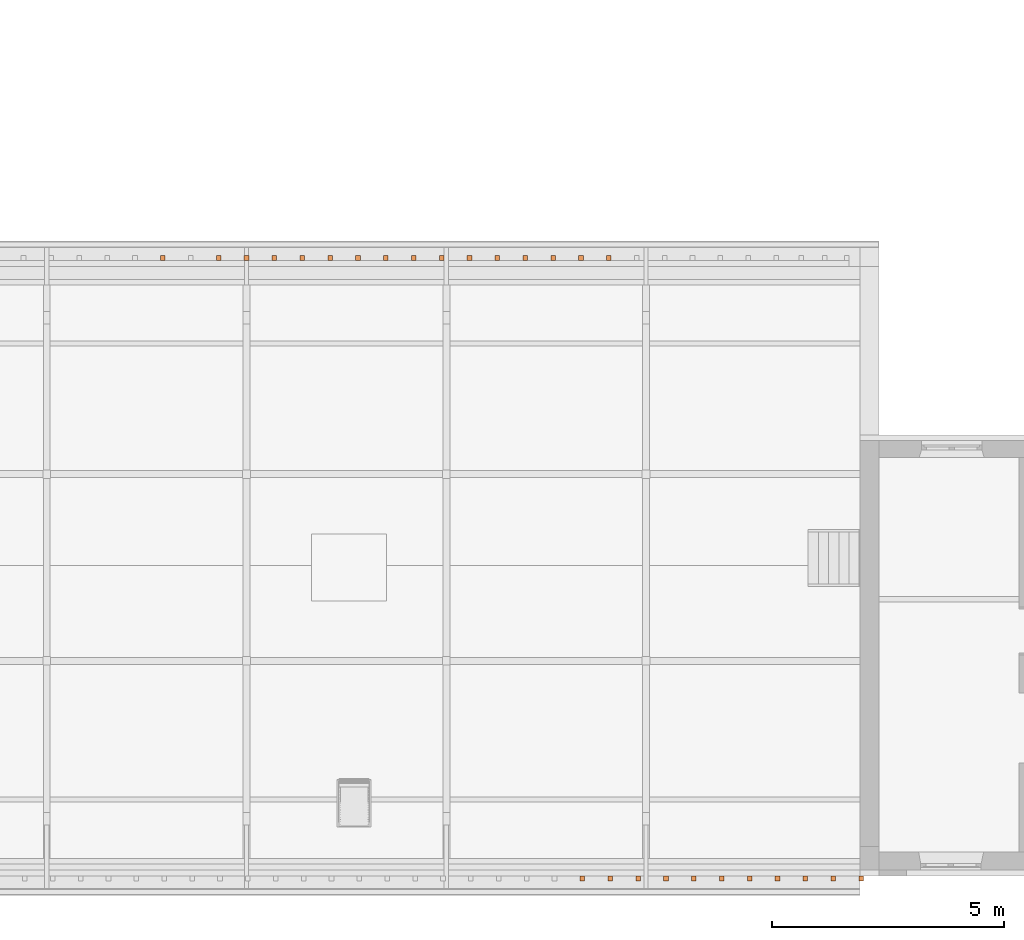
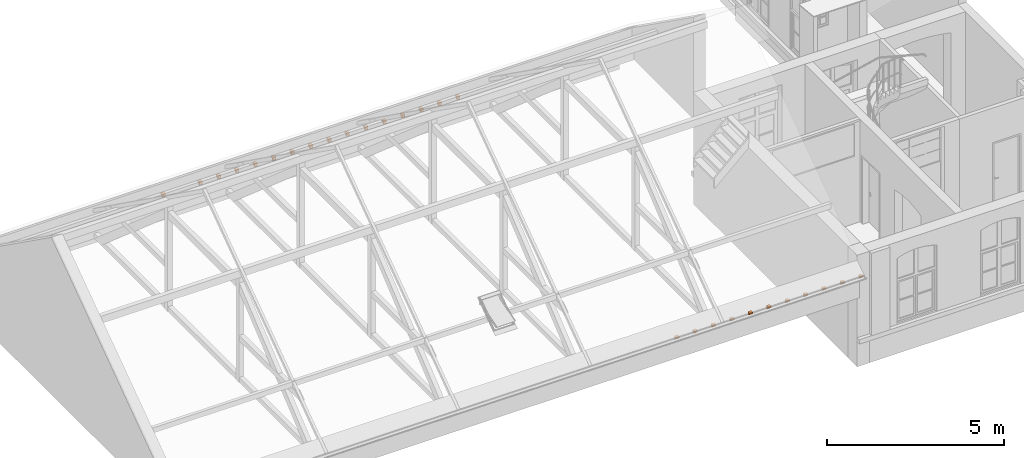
"""IFC4 building model written with IfcOpenShell, lengths in metres."""

import ifcopenshell
import ifcopenshell.guid

model = None  # the IFC model being written
_history = None  # IfcOwnerHistory: only IFC2X3 demands one
_inside = {}  # id of a spatial element -> (the spatial element, [elements in it])
_under = {}  # id of a project, library or spatial element -> (it, [spatial elements below it])
_declared = {}  # id of a project -> (the project, [libraries it declares])
_typed = {}  # id of a type object -> (the type object, [elements of that type])
_made_of = {}  # id of a material, layer set ... -> (it, [elements and type objects made of it])


def new_model(schema):
    """Start an empty IFC model of exactly this schema.

    Asked for "IFC4X3", IfcOpenShell would pick the latest addendum, in which some entities
    have other attributes; the version numbers below select the first issue.
    IFC2X3 requires an IfcOwnerHistory on every rooted entity: one is made here for all.
    """
    global model, _history
    if schema == "IFC4X3":
        model = ifcopenshell.file(schema_version=(4, 3, 0, 0))
    else:
        model = ifcopenshell.file(schema=schema)
    _inside.clear()
    _under.clear()
    _declared.clear()
    _typed.clear()
    _made_of.clear()
    _history = None
    if model.schema == "IFC2X3":
        org = make("IfcOrganization", Name="unknown")
        user = make(
            "IfcPersonAndOrganization",
            ThePerson=make("IfcPerson", FamilyName="unknown"),
            TheOrganization=org,
        )
        app = make(
            "IfcApplication",
            ApplicationDeveloper=org,
            Version="unknown",
            ApplicationFullName="unknown",
            ApplicationIdentifier="unknown",
        )
        _history = make(
            "IfcOwnerHistory",
            OwningUser=user,
            OwningApplication=app,
            ChangeAction="ADDED",
            CreationDate=0,
        )
    return model


def make(cls, **values):
    """One entity of the class cls with the attributes given. An attribute that is None is left unset."""
    return model.create_entity(
        cls, **{name: value for name, value in values.items() if value is not None}
    )


def entity(cls, *values):
    """Any entity or typed value of the class cls, its attributes in the order of the schema. None: left unset."""
    e = model.create_entity(cls)
    for i, value in enumerate(values):
        if value is not None:
            e[i] = value
    return e


def rooted(cls, **values):
    """An entity with a GlobalId (a new one), such as an element, a storey or a relation."""
    return make(cls, GlobalId=ifcopenshell.guid.new(), OwnerHistory=_history, **values)


def si_unit(unit_type, name, prefix=None):
    """IfcSIUnit, for example si_unit("LENGTHUNIT", "METRE", prefix="MILLI")."""
    return make("IfcSIUnit", UnitType=unit_type, Prefix=prefix, Name=name)


def converted_unit(unit_type, name, factor, base, dimensions=None, offset=None):
    """IfcConversionBasedUnit, such as the inch: factor (a typed value) times the base unit."""
    return make(
        "IfcConversionBasedUnit"
        if offset is None
        else "IfcConversionBasedUnitWithOffset",
        ConversionOffset=offset,
        Dimensions=None
        if dimensions is None
        else entity("IfcDimensionalExponents", *dimensions),
        UnitType=unit_type,
        Name=name,
        ConversionFactor=make(
            "IfcMeasureWithUnit", ValueComponent=factor, UnitComponent=base
        ),
    )


def derived_unit(unit_type, elements):
    """IfcDerivedUnit: a product of units, each with its exponent."""
    return make(
        "IfcDerivedUnit",
        Elements=[
            make("IfcDerivedUnitElement", Unit=unit, Exponent=power)
            for unit, power in elements
        ],
        UnitType=unit_type,
    )


def assignment(units):
    """IfcUnitAssignment: the units of a project."""
    return None if units is None else make("IfcUnitAssignment", Units=units)


def point(xyz):
    """IfcCartesianPoint."""
    return None if xyz is None else make("IfcCartesianPoint", Coordinates=xyz)


def direction(xyz):
    """IfcDirection."""
    return None if xyz is None else make("IfcDirection", DirectionRatios=xyz)


def frame(location, z_axis=None, x_axis=None):
    """IfcAxis2Placement3D, a coordinate frame: its origin and axes. An axis left out is left unset."""
    return make(
        "IfcAxis2Placement3D",
        Location=point(location),
        Axis=direction(z_axis),
        RefDirection=direction(x_axis),
    )


def origin():
    """The frame at (0, 0, 0) with its axes left unset."""
    return frame((0.0, 0.0, 0.0))


def place(relative_to, where):
    """IfcLocalPlacement: puts the frame where relative to a parent placement (None: the world)."""
    return make(
        "IfcLocalPlacement", PlacementRelTo=relative_to, RelativePlacement=where
    )


def context(
    kind, dimensions, precision=None, world=None, true_north=None, identifier=None
):
    """IfcGeometricRepresentationContext, for example the 3D "Model" context."""
    return make(
        "IfcGeometricRepresentationContext",
        ContextIdentifier=identifier,
        ContextType=kind,
        CoordinateSpaceDimension=dimensions,
        Precision=precision,
        WorldCoordinateSystem=world,
        TrueNorth=true_north,
    )


def subcontext(parent, identifier, kind, view, scale=None):
    """IfcGeometricRepresentationSubContext, for example "Body" below "Model"."""
    return make(
        "IfcGeometricRepresentationSubContext",
        ContextIdentifier=identifier,
        ContextType=kind,
        ParentContext=parent,
        TargetScale=scale,
        TargetView=view,
    )


def project(units=None, contexts=None):
    """IfcProject with its units and contexts."""
    return rooted(
        "IfcProject",
        Name="project",
        RepresentationContexts=contexts,
        UnitsInContext=assignment(units),
    )


def spatial(cls, under=None, at=None, **own):
    """A site, building, storey or space (cls), placed at a placement, below another one or the project."""
    s = rooted(cls, ObjectPlacement=at, **own)
    if under is not None:
        _under.setdefault(under.id(), (under, []))[1].append(s)
    return s


def faces_of(points, faces, orient=None, outer=None):
    """IfcFace entities. A face is a list of loops; a loop is a list of indices into points, from 0.

    orient and outer hold one flag for each loop. By default every Orientation is true, the
    first loop of a face is its IfcFaceOuterBound and the others are IfcFaceBound.
    """
    made = []
    for i, loops in enumerate(faces):
        bounds = []
        for j, loop in enumerate(loops):
            is_outer = j == 0 if outer is None else outer[i][j]
            bounds.append(
                make(
                    "IfcFaceOuterBound" if is_outer else "IfcFaceBound",
                    Bound=make("IfcPolyLoop", Polygon=[points[k] for k in loop]),
                    Orientation=True if orient is None else orient[i][j],
                )
            )
        made.append(make("IfcFace", Bounds=bounds))
    return made


def faceted_brep(points, faces, orient=None, outer=None, voids=None):
    """IfcFacetedBrep: a solid bounded by flat faces; with voids (closed shells), ...WithVoids."""
    shared = [point(p) for p in points]
    hull = make("IfcClosedShell", CfsFaces=faces_of(shared, faces, orient, outer))
    if voids is None:
        return make("IfcFacetedBrep", Outer=hull)
    return make(
        "IfcFacetedBrepWithVoids",
        Outer=hull,
        Voids=[
            make(cls, CfsFaces=faces_of(shared, fs, o, b)) for cls, fs, o, b in voids
        ],
    )


def shape(context_of_items, identifier, shape_type, items):
    """IfcShapeRepresentation: the items that make up one representation, for example the "Body"."""
    return make(
        "IfcShapeRepresentation",
        ContextOfItems=context_of_items,
        RepresentationIdentifier=identifier,
        RepresentationType=shape_type,
        Items=items,
    )


def made_of(thing, what):
    """Note that an element or type object is made of a material, layer set ...; save() writes the relation."""
    if what is not None:
        _made_of.setdefault(what.id(), (what, []))[1].append(thing)
    return thing


def element(
    cls,
    number,
    at=None,
    inside=None,
    cuts=None,
    type_object=None,
    material=None,
    context=None,
    identifier="Body",
    shape_type=None,
    held_by="IfcProductDefinitionShape",
    body=None,
    shapes=None,
    **own,
):
    """One element of the class cls, such as IfcWall. Its Tag is "e" and its number.

    at: its placement. inside: the storey or other place that contains it. cuts: it is an
    opening in that element (IfcRelVoidsElement). A single representation is given by context,
    identifier, shape_type and body (its items); several are given by shapes. held_by: the class
    of the entity that holds the representations. save() writes the other relations.
    """
    e = rooted(cls, Tag="e%d" % number, ObjectPlacement=at, **own)
    if body is not None:
        shapes = [shape(context, identifier, shape_type, body)]
    if shapes is not None:
        e.Representation = make(held_by, Representations=shapes)
    if inside is not None:
        _inside.setdefault(inside.id(), (inside, []))[1].append(e)
    if cuts is not None:
        rooted(
            "IfcRelVoidsElement", RelatingBuildingElement=cuts, RelatedOpeningElement=e
        )
    if type_object is not None:
        _typed.setdefault(type_object.id(), (type_object, []))[1].append(e)
    return made_of(e, material)


def aggregate(whole, parts):
    """IfcRelAggregates: a whole, such as a stair, and the parts it consists of."""
    return rooted("IfcRelAggregates", RelatingObject=whole, RelatedObjects=parts)


def save(model, path):
    """Write the relations noted so far, then the file.

    IfcRelAggregates (storeys below a building ...), IfcRelContainedInSpatialStructure (elements
    in a storey), IfcRelDefinesByType, IfcRelAssociatesMaterial and IfcRelDeclares: one each for
    every whole, place, type object, material and project.
    """
    for whole, parts in _under.values():
        aggregate(whole, parts)
    for where, things in _inside.values():
        rooted(
            "IfcRelContainedInSpatialStructure",
            RelatedElements=things,
            RelatingStructure=where,
        )
    for kind, things in _typed.values():
        rooted("IfcRelDefinesByType", RelatedObjects=things, RelatingType=kind)
    for what, things in _made_of.values():
        rooted("IfcRelAssociatesMaterial", RelatedObjects=things, RelatingMaterial=what)
    for by, libraries in _declared.values():
        rooted("IfcRelDeclares", RelatingContext=by, RelatedDefinitions=libraries)
    model.write(path)


model = new_model("IFC4")

# Units and contexts
model_context = context("Model", 3, precision=1e-05, world=origin())
body_context = subcontext(model_context, "Body", "Model", "MODEL_VIEW")
ifc_project = project(units=[si_unit("LENGTHUNIT", "METRE"), si_unit("AREAUNIT", "SQUARE_METRE"), si_unit("VOLUMEUNIT", "CUBIC_METRE"), si_unit("MASSUNIT", "GRAM", prefix="KILO"), converted_unit("PLANEANGLEUNIT", "DEGREE", entity("IfcPlaneAngleMeasure", 0.0174532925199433), si_unit("PLANEANGLEUNIT", "RADIAN"), dimensions=[0, 0, 0, 0, 0, 0, 0]), derived_unit("THERMALTRANSMITTANCEUNIT", [(si_unit("POWERUNIT", "WATT"), 1), (si_unit("THERMODYNAMICTEMPERATUREUNIT", "KELVIN"), -1), (si_unit("LENGTHUNIT", "METRE"), -2)]), derived_unit("VOLUMETRICFLOWRATEUNIT", [(si_unit("LENGTHUNIT", "METRE"), 3), (converted_unit("TIMEUNIT", "hour", entity("IfcTimeMeasure", 3600.0), si_unit("TIMEUNIT", "SECOND"), dimensions=[0, 0, 1, 0, 0, 0, 0]), -1), (si_unit("LENGTHUNIT", "METRE"), -1)])], contexts=[model_context])

# Building, storeys
building_placement = place(None, origin())
building = spatial("IfcBuilding", under=ifc_project, at=building_placement, Name="Bestandsgebäude A - Sporthalle / Wohnhaus (TB 100-499)   ANPASSEN !!!", CompositionType="ELEMENT")
storey_1_placement = place(building_placement, frame((0.0, 0.0, 3.87)))
storey_1 = spatial("IfcBuildingStorey", under=building, at=storey_1_placement, Name="Geb. A 1. Obergeschoss (TB 250-299)", CompositionType="ELEMENT", Elevation=3.87)
storey_2_placement = place(storey_1_placement, frame((0.0, 0.0, 3.87)))
storey_2 = spatial("IfcBuildingStorey", under=storey_1, at=storey_2_placement, Name="Architektur (TB 250-259)", CompositionType="PARTIAL")

# Proxies
for number, where in (
    (1, (-8.93000000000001, -0.230000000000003, -1.12676065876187)),
    (2, (-9.53000000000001, -0.230000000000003, -1.12676065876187)),
    (3, (-10.13, -0.230000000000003, -1.12676065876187)),
    (4, (-10.73, -0.230000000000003, -1.12676065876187)),
    (5, (-11.33, -0.230000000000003, -1.12676065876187)),
    (6, (-12.53, -0.230000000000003, -1.12676065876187)),
    (7, (-12.53, -0.230000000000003, -1.12676065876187)),
    (8, (-11.93, -0.230000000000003, -1.12676065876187)),
    (9, (-12.53, -0.230000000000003, -1.12676065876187)),
    (10, (-11.93, -0.230000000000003, -1.12676065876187)),
    (11, (-12.53, -0.230000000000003, -1.12676065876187)),
    (12, (-13.13, -0.230000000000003, -1.12676065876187)),
    (13, (-13.73, -0.230000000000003, -1.12676065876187)),
    (14, (-14.33, -0.230000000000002, -1.12676065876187)),
    (15, (-14.93, -0.230000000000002, -1.12676065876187)),
):
    element("IfcBuildingElementProxy", number, at=place(storey_2_placement, frame(where)), inside=storey_2, context=body_context, shape_type="Brep", body=[
        faceted_brep([(0.1, 0.11, 0.10676065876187), (0.0, 0.11, 0.10676065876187), (0.0, 0.109999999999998, 0.0), (0.1, 0.109999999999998, 0.0), (0.0, 0.0878057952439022, 0.0), (0.1, 0.0878057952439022, 0.0), (0.0, 0.079673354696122, 0.00115963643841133), (0.1, 0.079673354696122, 0.00115963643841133), (0.0, 0.0675008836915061, 0.00476296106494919), (0.1, 0.0675008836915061, 0.00476296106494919), (0.0, 0.0583377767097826, 0.00852666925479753), (0.1, 0.0583377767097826, 0.00852666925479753), (0.0, 0.0511802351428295, 0.0140969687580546), (0.1, 0.0511802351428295, 0.0140969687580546), (0.0, 0.0408945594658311, 0.0295254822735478), (0.1, 0.0408945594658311, 0.0295254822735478), (0.0, 0.04, 0.0333518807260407), (0.1, 0.04, 0.0333518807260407), (0.0, 0.04, 0.0567606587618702), (0.1, 0.04, 0.0567606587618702), (0.0, 0.0, 0.0567606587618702), (0.1, 0.0, 0.0567606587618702), (0.0, 0.0, 0.10676065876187), (0.1, 0.0, 0.10676065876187)], [[[0, 1, 2, 3]], [[3, 2, 4, 5]], [[5, 4, 6, 7]], [[7, 6, 8, 9]], [[9, 8, 10, 11]], [[11, 10, 12, 13]], [[13, 12, 14, 15]], [[15, 14, 16, 17]], [[17, 16, 18, 19]], [[19, 18, 20, 21]], [[21, 20, 22, 23]], [[23, 22, 1, 0]], [[0, 3, 5, 7, 9, 11, 13, 15, 17, 19, 21, 23]], [[1, 22, 20, 18, 16, 14, 12, 10, 8, 6, 4, 2]]], orient=[[False], [False], [False], [False], [False], [False], [False], [False], [False], [False], [False], [False], [False], [False]]),
    ])
proxy_1_placement = place(storey_2_placement, frame((-14.3600000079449, 13.1200012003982, -1.12676065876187)))
element("IfcBuildingElementProxy", 16, at=proxy_1_placement, inside=storey_2, context=body_context, shape_type="Brep", body=[
    faceted_brep([(0.100000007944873, 0.0, 0.10676065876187), (0.100000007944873, 0.0, 0.0), (0.0, 0.0, 0.0), (0.0, 0.0, 0.10676065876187), (0.10000000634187, 0.0221942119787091, 0.0), (0.0, 0.0221942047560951, 0.0), (0.100000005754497, 0.0303266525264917, 0.00115963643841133), (0.0, 0.0303266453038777, 0.00115963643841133), (0.100000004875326, 0.0424991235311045, 0.00476296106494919), (0.0, 0.0424991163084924, 0.00476296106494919), (0.100000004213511, 0.0516622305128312, 0.00852666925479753), (0.0, 0.0516622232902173, 0.00852666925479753), (0.100000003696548, 0.0588197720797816, 0.0140969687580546), (0.0, 0.0588197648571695, 0.0140969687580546), (0.100000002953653, 0.0691054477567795, 0.0295254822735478), (0.0, 0.0691054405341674, 0.0295254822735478), (0.100000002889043, 0.0700000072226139, 0.0333518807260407), (0.0, 0.07, 0.0333518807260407), (0.100000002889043, 0.0700000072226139, 0.0567606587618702), (0.0, 0.07, 0.0567606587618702), (0.0999999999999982, 0.110000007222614, 0.0567606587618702), (0.0, 0.11, 0.0567606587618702), (0.0999999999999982, 0.110000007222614, 0.10676065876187), (0.0, 0.11, 0.10676065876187)], [[[0, 1, 2, 3]], [[1, 4, 5, 2]], [[4, 6, 7, 5]], [[6, 8, 9, 7]], [[8, 10, 11, 9]], [[10, 12, 13, 11]], [[12, 14, 15, 13]], [[14, 16, 17, 15]], [[16, 18, 19, 17]], [[18, 20, 21, 19]], [[20, 22, 23, 21]], [[22, 0, 3, 23]], [[0, 22, 20, 18, 16, 14, 12, 10, 8, 6, 4, 1]], [[3, 2, 5, 7, 9, 11, 13, 15, 17, 19, 21, 23]]], orient=[[False], [False], [False], [False], [False], [False], [False], [False], [False], [False], [False], [False], [False], [False]]),
])
proxy_2_placement = place(storey_2_placement, frame((-14.9600000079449, 13.1200011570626, -1.12676065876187)))
element("IfcBuildingElementProxy", 17, at=proxy_2_placement, inside=storey_2, context=body_context, shape_type="Brep", body=[
    faceted_brep([(0.100000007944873, 0.0, 0.10676065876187), (0.100000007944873, 0.0, 0.0), (0.0, 0.0, 0.0), (0.0, 0.0, 0.10676065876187), (0.100000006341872, 0.0221942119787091, 0.0), (0.0, 0.0221942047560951, 0.0), (0.100000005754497, 0.0303266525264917, 0.00115963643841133), (0.0, 0.0303266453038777, 0.00115963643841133), (0.100000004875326, 0.0424991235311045, 0.00476296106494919), (0.0, 0.0424991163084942, 0.00476296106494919), (0.100000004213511, 0.0516622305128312, 0.00852666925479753), (0.0, 0.0516622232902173, 0.00852666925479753), (0.10000000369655, 0.0588197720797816, 0.0140969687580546), (0.0, 0.0588197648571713, 0.0140969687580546), (0.100000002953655, 0.0691054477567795, 0.0295254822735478), (0.0, 0.0691054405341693, 0.0295254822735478), (0.100000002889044, 0.0700000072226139, 0.0333518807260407), (0.0, 0.07, 0.0333518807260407), (0.100000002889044, 0.0700000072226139, 0.0567606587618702), (0.0, 0.07, 0.0567606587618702), (0.1, 0.110000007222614, 0.0567606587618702), (0.0, 0.11, 0.0567606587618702), (0.1, 0.110000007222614, 0.10676065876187), (0.0, 0.11, 0.10676065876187)], [[[0, 1, 2, 3]], [[1, 4, 5, 2]], [[4, 6, 7, 5]], [[6, 8, 9, 7]], [[8, 10, 11, 9]], [[10, 12, 13, 11]], [[12, 14, 15, 13]], [[14, 16, 17, 15]], [[16, 18, 19, 17]], [[18, 20, 21, 19]], [[20, 22, 23, 21]], [[22, 0, 3, 23]], [[0, 22, 20, 18, 16, 14, 12, 10, 8, 6, 4, 1]], [[3, 2, 5, 7, 9, 11, 13, 15, 17, 19, 21, 23]]], orient=[[False], [False], [False], [False], [False], [False], [False], [False], [False], [False], [False], [False], [False], [False]]),
])
proxy_3_placement = place(storey_2_placement, frame((-15.5600000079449, 13.1200011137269, -1.12676065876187)))
element("IfcBuildingElementProxy", 18, at=proxy_3_placement, inside=storey_2, context=body_context, shape_type="Brep", body=[
    faceted_brep([(0.100000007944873, 0.0, 0.10676065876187), (0.100000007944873, 0.0, 0.0), (0.0, 0.0, 0.0), (0.0, 0.0, 0.10676065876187), (0.100000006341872, 0.0221942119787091, 0.0), (0.0, 0.0221942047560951, 0.0), (0.100000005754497, 0.0303266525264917, 0.00115963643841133), (0.0, 0.0303266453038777, 0.00115963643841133), (0.100000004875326, 0.0424991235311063, 0.00476296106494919), (0.0, 0.0424991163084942, 0.00476296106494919), (0.100000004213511, 0.0516622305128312, 0.00852666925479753), (0.0, 0.0516622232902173, 0.00852666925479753), (0.10000000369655, 0.0588197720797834, 0.0140969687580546), (0.0, 0.0588197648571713, 0.0140969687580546), (0.100000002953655, 0.0691054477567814, 0.0295254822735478), (0.0, 0.0691054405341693, 0.0295254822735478), (0.100000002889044, 0.0700000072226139, 0.0333518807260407), (0.0, 0.07, 0.0333518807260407), (0.100000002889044, 0.0700000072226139, 0.0567606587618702), (0.0, 0.07, 0.0567606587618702), (0.1, 0.110000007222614, 0.0567606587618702), (0.0, 0.11, 0.0567606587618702), (0.1, 0.110000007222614, 0.10676065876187), (0.0, 0.11, 0.10676065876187)], [[[0, 1, 2, 3]], [[1, 4, 5, 2]], [[4, 6, 7, 5]], [[6, 8, 9, 7]], [[8, 10, 11, 9]], [[10, 12, 13, 11]], [[12, 14, 15, 13]], [[14, 16, 17, 15]], [[16, 18, 19, 17]], [[18, 20, 21, 19]], [[20, 22, 23, 21]], [[22, 0, 3, 23]], [[0, 22, 20, 18, 16, 14, 12, 10, 8, 6, 4, 1]], [[3, 2, 5, 7, 9, 11, 13, 15, 17, 19, 21, 23]]], orient=[[False], [False], [False], [False], [False], [False], [False], [False], [False], [False], [False], [False], [False], [False]]),
])
proxy_4_placement = place(storey_2_placement, frame((-16.1600000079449, 13.1200010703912, -1.12676065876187)))
element("IfcBuildingElementProxy", 19, at=proxy_4_placement, inside=storey_2, context=body_context, shape_type="Brep", body=[
    faceted_brep([(0.100000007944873, 0.0, 0.10676065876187), (0.100000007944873, 0.0, 0.0), (0.0, 0.0, 0.0), (0.0, 0.0, 0.10676065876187), (0.100000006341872, 0.0221942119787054, 0.0), (0.0, 0.0221942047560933, 0.0), (0.100000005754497, 0.030326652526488, 0.00115963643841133), (0.0, 0.0303266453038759, 0.00115963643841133), (0.100000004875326, 0.0424991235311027, 0.00476296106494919), (0.0, 0.0424991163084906, 0.00476296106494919), (0.100000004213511, 0.0516622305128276, 0.00852666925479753), (0.0, 0.0516622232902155, 0.00852666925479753), (0.10000000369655, 0.0588197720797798, 0.0140969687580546), (0.0, 0.0588197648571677, 0.0140969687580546), (0.100000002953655, 0.0691054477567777, 0.0295254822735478), (0.0, 0.0691054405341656, 0.0295254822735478), (0.100000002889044, 0.0700000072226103, 0.0333518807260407), (0.0, 0.0699999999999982, 0.0333518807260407), (0.100000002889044, 0.0700000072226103, 0.0567606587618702), (0.0, 0.0699999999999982, 0.0567606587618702), (0.1, 0.11000000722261, 0.0567606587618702), (0.0, 0.109999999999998, 0.0567606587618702), (0.1, 0.11000000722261, 0.10676065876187), (0.0, 0.109999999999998, 0.10676065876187)], [[[0, 1, 2, 3]], [[1, 4, 5, 2]], [[4, 6, 7, 5]], [[6, 8, 9, 7]], [[8, 10, 11, 9]], [[10, 12, 13, 11]], [[12, 14, 15, 13]], [[14, 16, 17, 15]], [[16, 18, 19, 17]], [[18, 20, 21, 19]], [[20, 22, 23, 21]], [[22, 0, 3, 23]], [[0, 22, 20, 18, 16, 14, 12, 10, 8, 6, 4, 1]], [[3, 2, 5, 7, 9, 11, 13, 15, 17, 19, 21, 23]]], orient=[[False], [False], [False], [False], [False], [False], [False], [False], [False], [False], [False], [False], [False], [False]]),
])
proxy_5_placement = place(storey_2_placement, frame((-16.7600000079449, 13.1200010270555, -1.12676065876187)))
element("IfcBuildingElementProxy", 20, at=proxy_5_placement, inside=storey_2, context=body_context, shape_type="Brep", body=[
    faceted_brep([(0.100000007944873, 0.0, 0.10676065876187), (0.100000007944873, 0.0, 0.0), (0.0, 0.0, 0.0), (0.0, 0.0, 0.10676065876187), (0.10000000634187, 0.0221942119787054, 0.0), (0.0, 0.0221942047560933, 0.0), (0.100000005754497, 0.030326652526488, 0.00115963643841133), (0.0, 0.0303266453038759, 0.00115963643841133), (0.100000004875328, 0.0424991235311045, 0.00476296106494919), (0.0, 0.0424991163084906, 0.00476296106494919), (0.100000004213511, 0.0516622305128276, 0.00852666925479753), (0.0, 0.0516622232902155, 0.00852666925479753), (0.10000000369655, 0.0588197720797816, 0.0140969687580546), (0.0, 0.0588197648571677, 0.0140969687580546), (0.100000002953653, 0.0691054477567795, 0.0295254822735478), (0.0, 0.0691054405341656, 0.0295254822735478), (0.100000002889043, 0.0700000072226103, 0.0333518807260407), (0.0, 0.0699999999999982, 0.0333518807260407), (0.100000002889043, 0.0700000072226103, 0.0567606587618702), (0.0, 0.0699999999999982, 0.0567606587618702), (0.1, 0.11000000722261, 0.0567606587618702), (0.0, 0.109999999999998, 0.0567606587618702), (0.1, 0.11000000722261, 0.10676065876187), (0.0, 0.109999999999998, 0.10676065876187)], [[[0, 1, 2, 3]], [[1, 4, 5, 2]], [[4, 6, 7, 5]], [[6, 8, 9, 7]], [[8, 10, 11, 9]], [[10, 12, 13, 11]], [[12, 14, 15, 13]], [[14, 16, 17, 15]], [[16, 18, 19, 17]], [[18, 20, 21, 19]], [[20, 22, 23, 21]], [[22, 0, 3, 23]], [[0, 22, 20, 18, 16, 14, 12, 10, 8, 6, 4, 1]], [[3, 2, 5, 7, 9, 11, 13, 15, 17, 19, 21, 23]]], orient=[[False], [False], [False], [False], [False], [False], [False], [False], [False], [False], [False], [False], [False], [False]]),
])
proxy_6_placement = place(storey_2_placement, frame((-17.3600000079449, 13.1200009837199, -1.12676065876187)))
element("IfcBuildingElementProxy", 21, at=proxy_6_placement, inside=storey_2, context=body_context, shape_type="Brep", body=[
    faceted_brep([(0.100000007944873, 0.0, 0.10676065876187), (0.100000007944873, 0.0, 0.0), (0.0, 0.0, 0.0), (0.0, 0.0, 0.10676065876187), (0.100000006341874, 0.0221942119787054, 0.0), (0.0, 0.0221942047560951, 0.0), (0.100000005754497, 0.030326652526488, 0.00115963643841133), (0.0, 0.0303266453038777, 0.00115963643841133), (0.100000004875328, 0.0424991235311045, 0.00476296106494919), (0.0, 0.0424991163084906, 0.00476296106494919), (0.100000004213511, 0.0516622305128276, 0.00852666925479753), (0.0, 0.0516622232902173, 0.00852666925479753), (0.10000000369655, 0.0588197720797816, 0.0140969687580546), (0.0, 0.0588197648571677, 0.0140969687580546), (0.100000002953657, 0.0691054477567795, 0.0295254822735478), (0.0, 0.0691054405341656, 0.0295254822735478), (0.100000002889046, 0.0700000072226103, 0.0333518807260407), (0.0, 0.07, 0.0333518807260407), (0.100000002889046, 0.0700000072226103, 0.0567606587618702), (0.0, 0.07, 0.0567606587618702), (0.1, 0.11000000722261, 0.0567606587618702), (0.0, 0.11, 0.0567606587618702), (0.1, 0.11000000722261, 0.10676065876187), (0.0, 0.11, 0.10676065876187)], [[[0, 1, 2, 3]], [[1, 4, 5, 2]], [[4, 6, 7, 5]], [[6, 8, 9, 7]], [[8, 10, 11, 9]], [[10, 12, 13, 11]], [[12, 14, 15, 13]], [[14, 16, 17, 15]], [[16, 18, 19, 17]], [[18, 20, 21, 19]], [[20, 22, 23, 21]], [[22, 0, 3, 23]], [[0, 22, 20, 18, 16, 14, 12, 10, 8, 6, 4, 1]], [[3, 2, 5, 7, 9, 11, 13, 15, 17, 19, 21, 23]]], orient=[[False], [False], [False], [False], [False], [False], [False], [False], [False], [False], [False], [False], [False], [False]]),
])
proxy_7_placement = place(storey_2_placement, frame((-17.9600000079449, 13.1200009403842, -1.12676065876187)))
element("IfcBuildingElementProxy", 22, at=proxy_7_placement, inside=storey_2, context=body_context, shape_type="Brep", body=[
    faceted_brep([(0.100000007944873, 0.0, 0.10676065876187), (0.100000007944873, 0.0, 0.0), (0.0, 0.0, 0.0), (0.0, 0.0, 0.10676065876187), (0.10000000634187, 0.0221942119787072, 0.0), (0.0, 0.0221942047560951, 0.0), (0.100000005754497, 0.0303266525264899, 0.00115963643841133), (0.0, 0.0303266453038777, 0.00115963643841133), (0.100000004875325, 0.0424991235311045, 0.00476296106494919), (0.0, 0.0424991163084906, 0.00476296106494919), (0.100000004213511, 0.0516622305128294, 0.00852666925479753), (0.0, 0.0516622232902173, 0.00852666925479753), (0.10000000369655, 0.0588197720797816, 0.0140969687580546), (0.0, 0.0588197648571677, 0.0140969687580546), (0.100000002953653, 0.0691054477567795, 0.0295254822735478), (0.0, 0.0691054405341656, 0.0295254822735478), (0.100000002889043, 0.0700000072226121, 0.0333518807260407), (0.0, 0.07, 0.0333518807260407), (0.100000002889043, 0.0700000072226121, 0.0567606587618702), (0.0, 0.07, 0.0567606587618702), (0.1, 0.110000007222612, 0.0567606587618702), (0.0, 0.11, 0.0567606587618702), (0.1, 0.110000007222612, 0.10676065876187), (0.0, 0.11, 0.10676065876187)], [[[0, 1, 2, 3]], [[1, 4, 5, 2]], [[4, 6, 7, 5]], [[6, 8, 9, 7]], [[8, 10, 11, 9]], [[10, 12, 13, 11]], [[12, 14, 15, 13]], [[14, 16, 17, 15]], [[16, 18, 19, 17]], [[18, 20, 21, 19]], [[20, 22, 23, 21]], [[22, 0, 3, 23]], [[0, 22, 20, 18, 16, 14, 12, 10, 8, 6, 4, 1]], [[3, 2, 5, 7, 9, 11, 13, 15, 17, 19, 21, 23]]], orient=[[False], [False], [False], [False], [False], [False], [False], [False], [False], [False], [False], [False], [False], [False]]),
])
proxy_8_placement = place(storey_2_placement, frame((-18.5600000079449, 13.1200008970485, -1.12676065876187)))
element("IfcBuildingElementProxy", 23, at=proxy_8_placement, inside=storey_2, context=body_context, shape_type="Brep", body=[
    faceted_brep([(0.100000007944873, 0.0, 0.10676065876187), (0.100000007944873, 0.0, 0.0), (0.0, 0.0, 0.0), (0.0, 0.0, 0.10676065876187), (0.100000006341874, 0.0221942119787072, 0.0), (0.0, 0.0221942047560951, 0.0), (0.100000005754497, 0.0303266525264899, 0.00115963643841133), (0.0, 0.0303266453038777, 0.00115963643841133), (0.100000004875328, 0.0424991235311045, 0.00476296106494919), (0.0, 0.0424991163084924, 0.00476296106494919), (0.100000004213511, 0.0516622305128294, 0.00852666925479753), (0.0, 0.0516622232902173, 0.00852666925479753), (0.10000000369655, 0.0588197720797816, 0.0140969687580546), (0.0, 0.0588197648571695, 0.0140969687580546), (0.100000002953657, 0.0691054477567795, 0.0295254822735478), (0.0, 0.0691054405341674, 0.0295254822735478), (0.100000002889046, 0.0700000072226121, 0.0333518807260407), (0.0, 0.07, 0.0333518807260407), (0.100000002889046, 0.0700000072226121, 0.0567606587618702), (0.0, 0.07, 0.0567606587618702), (0.1, 0.110000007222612, 0.0567606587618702), (0.0, 0.11, 0.0567606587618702), (0.1, 0.110000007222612, 0.10676065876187), (0.0, 0.11, 0.10676065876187)], [[[0, 1, 2, 3]], [[1, 4, 5, 2]], [[4, 6, 7, 5]], [[6, 8, 9, 7]], [[8, 10, 11, 9]], [[10, 12, 13, 11]], [[12, 14, 15, 13]], [[14, 16, 17, 15]], [[16, 18, 19, 17]], [[18, 20, 21, 19]], [[20, 22, 23, 21]], [[22, 0, 3, 23]], [[0, 22, 20, 18, 16, 14, 12, 10, 8, 6, 4, 1]], [[3, 2, 5, 7, 9, 11, 13, 15, 17, 19, 21, 23]]], orient=[[False], [False], [False], [False], [False], [False], [False], [False], [False], [False], [False], [False], [False], [False]]),
])
proxy_9_placement = place(storey_2_placement, frame((-19.1600000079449, 13.1200008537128, -1.12676065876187)))
element("IfcBuildingElementProxy", 24, at=proxy_9_placement, inside=storey_2, context=body_context, shape_type="Brep", body=[
    faceted_brep([(0.100000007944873, 0.0, 0.10676065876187), (0.100000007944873, 0.0, 0.0), (0.0, 0.0, 0.0), (0.0, 0.0, 0.10676065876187), (0.10000000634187, 0.0221942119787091, 0.0), (0.0, 0.0221942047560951, 0.0), (0.100000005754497, 0.0303266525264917, 0.00115963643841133), (0.0, 0.0303266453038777, 0.00115963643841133), (0.100000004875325, 0.0424991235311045, 0.00476296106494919), (0.0, 0.0424991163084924, 0.00476296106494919), (0.100000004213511, 0.0516622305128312, 0.00852666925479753), (0.0, 0.0516622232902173, 0.00852666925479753), (0.100000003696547, 0.0588197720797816, 0.0140969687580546), (0.0, 0.0588197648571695, 0.0140969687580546), (0.100000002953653, 0.0691054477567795, 0.0295254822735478), (0.0, 0.0691054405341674, 0.0295254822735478), (0.100000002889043, 0.0700000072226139, 0.0333518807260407), (0.0, 0.07, 0.0333518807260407), (0.100000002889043, 0.0700000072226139, 0.0567606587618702), (0.0, 0.07, 0.0567606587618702), (0.0999999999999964, 0.110000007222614, 0.0567606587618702), (0.0, 0.11, 0.0567606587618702), (0.0999999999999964, 0.110000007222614, 0.10676065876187), (0.0, 0.11, 0.10676065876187)], [[[0, 1, 2, 3]], [[1, 4, 5, 2]], [[4, 6, 7, 5]], [[6, 8, 9, 7]], [[8, 10, 11, 9]], [[10, 12, 13, 11]], [[12, 14, 15, 13]], [[14, 16, 17, 15]], [[16, 18, 19, 17]], [[18, 20, 21, 19]], [[20, 22, 23, 21]], [[22, 0, 3, 23]], [[0, 22, 20, 18, 16, 14, 12, 10, 8, 6, 4, 1]], [[3, 2, 5, 7, 9, 11, 13, 15, 17, 19, 21, 23]]], orient=[[False], [False], [False], [False], [False], [False], [False], [False], [False], [False], [False], [False], [False], [False]]),
])
proxy_10_placement = place(storey_2_placement, frame((-19.7600000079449, 13.1200008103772, -1.12676065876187)))
element("IfcBuildingElementProxy", 25, at=proxy_10_placement, inside=storey_2, context=body_context, shape_type="Brep", body=[
    faceted_brep([(0.100000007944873, 0.0, 0.10676065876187), (0.100000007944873, 0.0, 0.0), (0.0, 0.0, 0.0), (0.0, 0.0, 0.10676065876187), (0.100000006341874, 0.0221942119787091, 0.0), (0.0, 0.0221942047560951, 0.0), (0.100000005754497, 0.0303266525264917, 0.00115963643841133), (0.0, 0.0303266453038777, 0.00115963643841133), (0.100000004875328, 0.0424991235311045, 0.00476296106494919), (0.0, 0.0424991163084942, 0.00476296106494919), (0.100000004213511, 0.0516622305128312, 0.00852666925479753), (0.0, 0.0516622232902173, 0.00852666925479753), (0.10000000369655, 0.0588197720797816, 0.0140969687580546), (0.0, 0.0588197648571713, 0.0140969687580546), (0.100000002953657, 0.0691054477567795, 0.0295254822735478), (0.0, 0.0691054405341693, 0.0295254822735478), (0.100000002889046, 0.0700000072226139, 0.0333518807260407), (0.0, 0.07, 0.0333518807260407), (0.100000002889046, 0.0700000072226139, 0.0567606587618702), (0.0, 0.07, 0.0567606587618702), (0.1, 0.110000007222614, 0.0567606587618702), (0.0, 0.11, 0.0567606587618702), (0.1, 0.110000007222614, 0.10676065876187), (0.0, 0.11, 0.10676065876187)], [[[0, 1, 2, 3]], [[1, 4, 5, 2]], [[4, 6, 7, 5]], [[6, 8, 9, 7]], [[8, 10, 11, 9]], [[10, 12, 13, 11]], [[12, 14, 15, 13]], [[14, 16, 17, 15]], [[16, 18, 19, 17]], [[18, 20, 21, 19]], [[20, 22, 23, 21]], [[22, 0, 3, 23]], [[0, 22, 20, 18, 16, 14, 12, 10, 8, 6, 4, 1]], [[3, 2, 5, 7, 9, 11, 13, 15, 17, 19, 21, 23]]], orient=[[False], [False], [False], [False], [False], [False], [False], [False], [False], [False], [False], [False], [False], [False]]),
])
proxy_11_placement = place(storey_2_placement, frame((-20.3600000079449, 13.1200007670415, -1.12676065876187)))
element("IfcBuildingElementProxy", 26, at=proxy_11_placement, inside=storey_2, context=body_context, shape_type="Brep", body=[
    faceted_brep([(0.100000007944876, 0.0, 0.10676065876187), (0.100000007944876, 0.0, 0.0), (0.0, 0.0, 0.0), (0.0, 0.0, 0.10676065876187), (0.100000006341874, 0.0221942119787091, 0.0), (0.0, 0.0221942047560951, 0.0), (0.1000000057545, 0.0303266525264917, 0.00115963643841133), (0.0, 0.0303266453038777, 0.00115963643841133), (0.100000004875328, 0.0424991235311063, 0.00476296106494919), (0.0, 0.0424991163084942, 0.00476296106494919), (0.100000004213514, 0.0516622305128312, 0.00852666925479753), (0.0, 0.0516622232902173, 0.00852666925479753), (0.10000000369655, 0.0588197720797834, 0.0140969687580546), (0.0, 0.0588197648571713, 0.0140969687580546), (0.100000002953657, 0.0691054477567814, 0.0295254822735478), (0.0, 0.0691054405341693, 0.0295254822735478), (0.100000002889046, 0.0700000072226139, 0.0333518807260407), (0.0, 0.07, 0.0333518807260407), (0.100000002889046, 0.0700000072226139, 0.0567606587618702), (0.0, 0.07, 0.0567606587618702), (0.1, 0.110000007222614, 0.0567606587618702), (0.0, 0.11, 0.0567606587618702), (0.1, 0.110000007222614, 0.10676065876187), (0.0, 0.11, 0.10676065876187)], [[[0, 1, 2, 3]], [[1, 4, 5, 2]], [[4, 6, 7, 5]], [[6, 8, 9, 7]], [[8, 10, 11, 9]], [[10, 12, 13, 11]], [[12, 14, 15, 13]], [[14, 16, 17, 15]], [[16, 18, 19, 17]], [[18, 20, 21, 19]], [[20, 22, 23, 21]], [[22, 0, 3, 23]], [[0, 22, 20, 18, 16, 14, 12, 10, 8, 6, 4, 1]], [[3, 2, 5, 7, 9, 11, 13, 15, 17, 19, 21, 23]]], orient=[[False], [False], [False], [False], [False], [False], [False], [False], [False], [False], [False], [False], [False], [False]]),
])
proxy_12_placement = place(storey_2_placement, frame((-20.9600000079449, 13.1200007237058, -1.12676065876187)))
element("IfcBuildingElementProxy", 27, at=proxy_12_placement, inside=storey_2, context=body_context, shape_type="Brep", body=[
    faceted_brep([(0.100000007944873, 0.0, 0.10676065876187), (0.100000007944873, 0.0, 0.0), (0.0, 0.0, 0.0), (0.0, 0.0, 0.10676065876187), (0.10000000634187, 0.0221942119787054, 0.0), (0.0, 0.0221942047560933, 0.0), (0.100000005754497, 0.030326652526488, 0.00115963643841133), (0.0, 0.0303266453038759, 0.00115963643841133), (0.100000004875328, 0.0424991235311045, 0.00476296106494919), (0.0, 0.0424991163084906, 0.00476296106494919), (0.100000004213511, 0.0516622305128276, 0.00852666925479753), (0.0, 0.0516622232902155, 0.00852666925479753), (0.10000000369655, 0.0588197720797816, 0.0140969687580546), (0.0, 0.0588197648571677, 0.0140969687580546), (0.100000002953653, 0.0691054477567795, 0.0295254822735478), (0.0, 0.0691054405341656, 0.0295254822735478), (0.100000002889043, 0.0700000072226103, 0.0333518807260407), (0.0, 0.0699999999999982, 0.0333518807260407), (0.100000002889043, 0.0700000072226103, 0.0567606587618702), (0.0, 0.0699999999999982, 0.0567606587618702), (0.1, 0.11000000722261, 0.0567606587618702), (0.0, 0.109999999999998, 0.0567606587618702), (0.1, 0.11000000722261, 0.10676065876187), (0.0, 0.109999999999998, 0.10676065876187)], [[[0, 1, 2, 3]], [[1, 4, 5, 2]], [[4, 6, 7, 5]], [[6, 8, 9, 7]], [[8, 10, 11, 9]], [[10, 12, 13, 11]], [[12, 14, 15, 13]], [[14, 16, 17, 15]], [[16, 18, 19, 17]], [[18, 20, 21, 19]], [[20, 22, 23, 21]], [[22, 0, 3, 23]], [[0, 22, 20, 18, 16, 14, 12, 10, 8, 6, 4, 1]], [[3, 2, 5, 7, 9, 11, 13, 15, 17, 19, 21, 23]]], orient=[[False], [False], [False], [False], [False], [False], [False], [False], [False], [False], [False], [False], [False], [False]]),
])
proxy_13_placement = place(storey_2_placement, frame((-21.5600000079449, 13.1200006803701, -1.12676065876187)))
element("IfcBuildingElementProxy", 28, at=proxy_13_placement, inside=storey_2, context=body_context, shape_type="Brep", body=[
    faceted_brep([(0.100000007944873, 0.0, 0.10676065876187), (0.100000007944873, 0.0, 0.0), (0.0, 0.0, 0.0), (0.0, 0.0, 0.10676065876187), (0.100000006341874, 0.0221942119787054, 0.0), (0.0, 0.0221942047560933, 0.0), (0.100000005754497, 0.030326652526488, 0.00115963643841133), (0.0, 0.0303266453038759, 0.00115963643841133), (0.100000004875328, 0.0424991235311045, 0.00476296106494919), (0.0, 0.0424991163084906, 0.00476296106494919), (0.100000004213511, 0.0516622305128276, 0.00852666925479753), (0.0, 0.0516622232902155, 0.00852666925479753), (0.10000000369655, 0.0588197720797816, 0.0140969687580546), (0.0, 0.0588197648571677, 0.0140969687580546), (0.100000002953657, 0.0691054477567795, 0.0295254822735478), (0.0, 0.0691054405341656, 0.0295254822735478), (0.100000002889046, 0.0700000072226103, 0.0333518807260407), (0.0, 0.0699999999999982, 0.0333518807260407), (0.100000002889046, 0.0700000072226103, 0.0567606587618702), (0.0, 0.0699999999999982, 0.0567606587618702), (0.1, 0.11000000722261, 0.0567606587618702), (0.0, 0.109999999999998, 0.0567606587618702), (0.1, 0.11000000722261, 0.10676065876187), (0.0, 0.109999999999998, 0.10676065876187)], [[[0, 1, 2, 3]], [[1, 4, 5, 2]], [[4, 6, 7, 5]], [[6, 8, 9, 7]], [[8, 10, 11, 9]], [[10, 12, 13, 11]], [[12, 14, 15, 13]], [[14, 16, 17, 15]], [[16, 18, 19, 17]], [[18, 20, 21, 19]], [[20, 22, 23, 21]], [[22, 0, 3, 23]], [[0, 22, 20, 18, 16, 14, 12, 10, 8, 6, 4, 1]], [[3, 2, 5, 7, 9, 11, 13, 15, 17, 19, 21, 23]]], orient=[[False], [False], [False], [False], [False], [False], [False], [False], [False], [False], [False], [False], [False], [False]]),
])
proxy_14_placement = place(storey_2_placement, frame((-22.1600000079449, 13.1200006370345, -1.12676065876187)))
element("IfcBuildingElementProxy", 29, at=proxy_14_placement, inside=storey_2, context=body_context, shape_type="Brep", body=[
    faceted_brep([(0.100000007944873, 0.0, 0.10676065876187), (0.100000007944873, 0.0, 0.0), (0.0, 0.0, 0.0), (0.0, 0.0, 0.10676065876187), (0.10000000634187, 0.0221942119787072, 0.0), (0.0, 0.0221942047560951, 0.0), (0.100000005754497, 0.0303266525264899, 0.00115963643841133), (0.0, 0.0303266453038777, 0.00115963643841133), (0.100000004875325, 0.0424991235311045, 0.00476296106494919), (0.0, 0.0424991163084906, 0.00476296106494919), (0.100000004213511, 0.0516622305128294, 0.00852666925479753), (0.0, 0.0516622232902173, 0.00852666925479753), (0.10000000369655, 0.0588197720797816, 0.0140969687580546), (0.0, 0.0588197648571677, 0.0140969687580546), (0.100000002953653, 0.0691054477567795, 0.0295254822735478), (0.0, 0.0691054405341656, 0.0295254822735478), (0.100000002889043, 0.0700000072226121, 0.0333518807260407), (0.0, 0.07, 0.0333518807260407), (0.100000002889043, 0.0700000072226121, 0.0567606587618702), (0.0, 0.07, 0.0567606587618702), (0.1, 0.110000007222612, 0.0567606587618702), (0.0, 0.11, 0.0567606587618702), (0.1, 0.110000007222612, 0.10676065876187), (0.0, 0.11, 0.10676065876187)], [[[0, 1, 2, 3]], [[1, 4, 5, 2]], [[4, 6, 7, 5]], [[6, 8, 9, 7]], [[8, 10, 11, 9]], [[10, 12, 13, 11]], [[12, 14, 15, 13]], [[14, 16, 17, 15]], [[16, 18, 19, 17]], [[18, 20, 21, 19]], [[20, 22, 23, 21]], [[22, 0, 3, 23]], [[0, 22, 20, 18, 16, 14, 12, 10, 8, 6, 4, 1]], [[3, 2, 5, 7, 9, 11, 13, 15, 17, 19, 21, 23]]], orient=[[False], [False], [False], [False], [False], [False], [False], [False], [False], [False], [False], [False], [False], [False]]),
])
proxy_15_placement = place(storey_2_placement, frame((-22.7600000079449, 13.1200005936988, -1.12676065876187)))
element("IfcBuildingElementProxy", 30, at=proxy_15_placement, inside=storey_2, context=body_context, shape_type="Brep", body=[
    faceted_brep([(0.100000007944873, 0.0, 0.10676065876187), (0.100000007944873, 0.0, 0.0), (0.0, 0.0, 0.0), (0.0, 0.0, 0.10676065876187), (0.100000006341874, 0.0221942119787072, 0.0), (0.0, 0.0221942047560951, 0.0), (0.100000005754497, 0.0303266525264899, 0.00115963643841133), (0.0, 0.0303266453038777, 0.00115963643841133), (0.100000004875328, 0.0424991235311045, 0.00476296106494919), (0.0, 0.0424991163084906, 0.00476296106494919), (0.100000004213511, 0.0516622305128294, 0.00852666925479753), (0.0, 0.0516622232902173, 0.00852666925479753), (0.10000000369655, 0.0588197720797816, 0.0140969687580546), (0.0, 0.0588197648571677, 0.0140969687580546), (0.100000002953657, 0.0691054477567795, 0.0295254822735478), (0.0, 0.0691054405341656, 0.0295254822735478), (0.100000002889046, 0.0700000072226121, 0.0333518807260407), (0.0, 0.07, 0.0333518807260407), (0.100000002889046, 0.0700000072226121, 0.0567606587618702), (0.0, 0.07, 0.0567606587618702), (0.1, 0.110000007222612, 0.0567606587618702), (0.0, 0.11, 0.0567606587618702), (0.1, 0.110000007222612, 0.10676065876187), (0.0, 0.11, 0.10676065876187)], [[[0, 1, 2, 3]], [[1, 4, 5, 2]], [[4, 6, 7, 5]], [[6, 8, 9, 7]], [[8, 10, 11, 9]], [[10, 12, 13, 11]], [[12, 14, 15, 13]], [[14, 16, 17, 15]], [[16, 18, 19, 17]], [[18, 20, 21, 19]], [[20, 22, 23, 21]], [[22, 0, 3, 23]], [[0, 22, 20, 18, 16, 14, 12, 10, 8, 6, 4, 1]], [[3, 2, 5, 7, 9, 11, 13, 15, 17, 19, 21, 23]]], orient=[[False], [False], [False], [False], [False], [False], [False], [False], [False], [False], [False], [False], [False], [False]]),
])
proxy_16_placement = place(storey_2_placement, frame((-23.9600000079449, 13.1200005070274, -1.12676065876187)))
element("IfcBuildingElementProxy", 31, at=proxy_16_placement, inside=storey_2, context=body_context, shape_type="Brep", body=[
    faceted_brep([(0.100000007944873, 0.0, 0.10676065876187), (0.100000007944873, 0.0, 0.0), (0.0, 0.0, 0.0), (0.0, 0.0, 0.10676065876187), (0.100000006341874, 0.0221942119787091, 0.0), (0.0, 0.0221942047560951, 0.0), (0.100000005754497, 0.0303266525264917, 0.00115963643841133), (0.0, 0.0303266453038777, 0.00115963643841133), (0.100000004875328, 0.0424991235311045, 0.00476296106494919), (0.0, 0.0424991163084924, 0.00476296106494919), (0.100000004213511, 0.0516622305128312, 0.00852666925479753), (0.0, 0.0516622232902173, 0.00852666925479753), (0.10000000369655, 0.0588197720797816, 0.0140969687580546), (0.0, 0.0588197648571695, 0.0140969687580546), (0.100000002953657, 0.0691054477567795, 0.0295254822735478), (0.0, 0.0691054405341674, 0.0295254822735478), (0.100000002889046, 0.0700000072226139, 0.0333518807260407), (0.0, 0.07, 0.0333518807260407), (0.100000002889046, 0.0700000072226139, 0.0567606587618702), (0.0, 0.07, 0.0567606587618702), (0.1, 0.110000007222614, 0.0567606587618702), (0.0, 0.11, 0.0567606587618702), (0.1, 0.110000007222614, 0.10676065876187), (0.0, 0.11, 0.10676065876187)], [[[0, 1, 2, 3]], [[1, 4, 5, 2]], [[4, 6, 7, 5]], [[6, 8, 9, 7]], [[8, 10, 11, 9]], [[10, 12, 13, 11]], [[12, 14, 15, 13]], [[14, 16, 17, 15]], [[16, 18, 19, 17]], [[18, 20, 21, 19]], [[20, 22, 23, 21]], [[22, 0, 3, 23]], [[0, 22, 20, 18, 16, 14, 12, 10, 8, 6, 4, 1]], [[3, 2, 5, 7, 9, 11, 13, 15, 17, 19, 21, 23]]], orient=[[False], [False], [False], [False], [False], [False], [False], [False], [False], [False], [False], [False], [False], [False]]),
])

save(model, "model.ifc")
